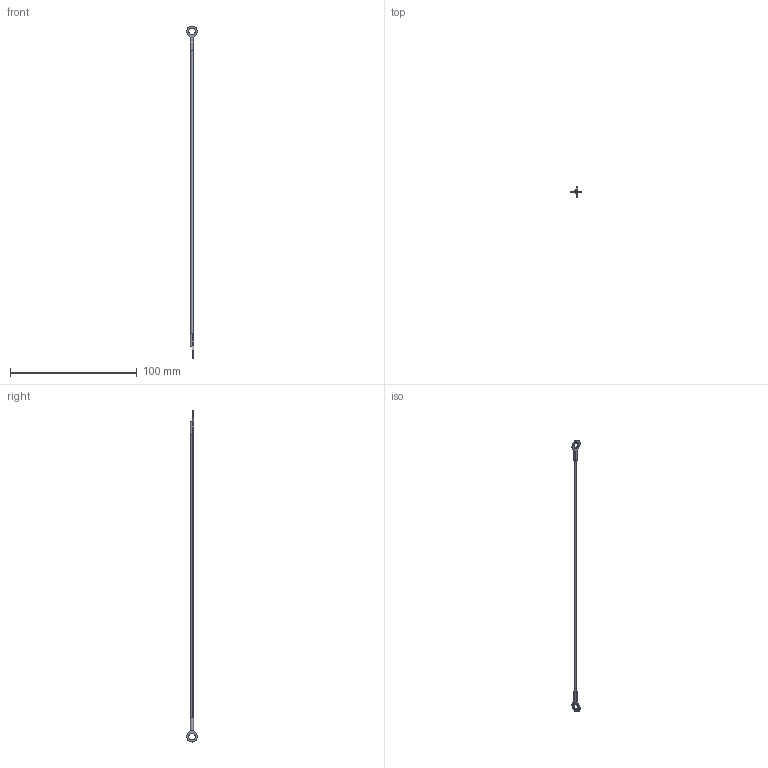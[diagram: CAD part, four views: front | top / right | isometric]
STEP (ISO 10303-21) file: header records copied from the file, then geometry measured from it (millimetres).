
FILE_DESCRIPTION (( 'STEP AP203' ), '1' );
FILE_NAME ('LA1070.I04-254B1.step', '2026-03-23T14:47:17', ( '' ), ( '' ), 'SwSTEP 2.0', 'SolidWorks 2019', '' );
FILE_SCHEMA (( 'CONFIG_CONTROL_DESIGN' ));
Length unit declared in the file: millimetre
Products named in the file (1): LA1070.I04-254B1
Bounding box: 8.38 x 8.38 x 262.38 mm (x, y, z)
Volume: 624.7 mm3; surface area: 1538.5 mm2
Topology: 1 solids, 1 shells, 27 faces, 65 edges, 42 vertices
Faces by surface type: plane 16, cylinder 11
Entity records: 874 total; most frequent: DIRECTION 143, CARTESIAN_POINT 135, ORIENTED_EDGE 130, EDGE_CURVE 65, AXIS2_PLACEMENT_3D 50, VECTOR 43, LINE 43, VERTEX_POINT 42
